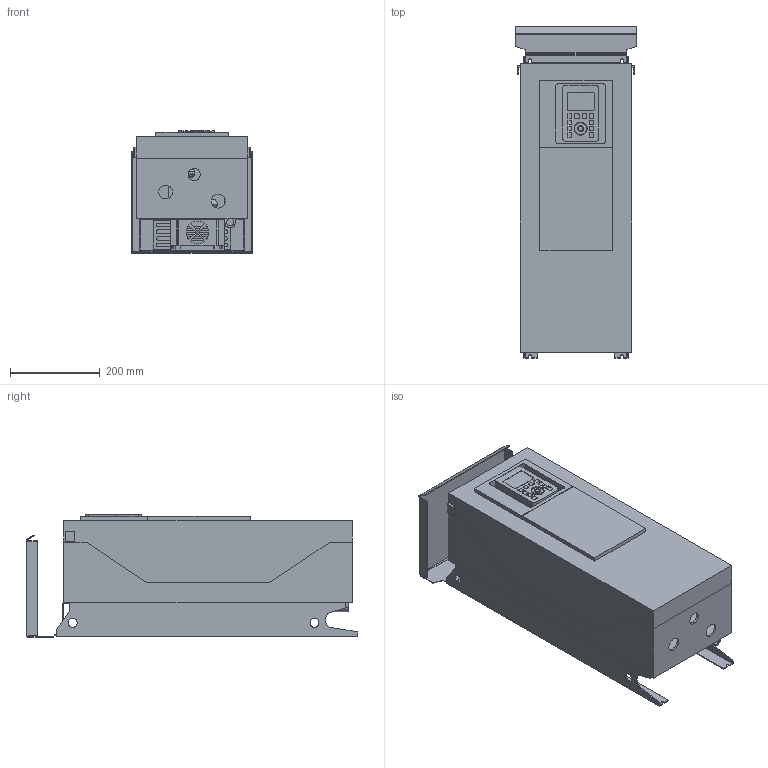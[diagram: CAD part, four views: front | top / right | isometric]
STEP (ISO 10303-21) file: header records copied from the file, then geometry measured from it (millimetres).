
FILE_DESCRIPTION((''),'2;1');
FILE_NAME('VFAS3_SA1E_ASM','2017-06-16T',('SESA57284'),('Schneider-Electric'),'PRO/ENGINEER BY PARAMETRIC TECHNOLOGY CORPORATION, 2015440','PRO/ENGINEER BY PARAMETRIC TECHNOLOGY CORPORATION, 2015440','');
FILE_SCHEMA(('CONFIG_CONTROL_DESIGN'));
Length unit declared in the file: millimetre
Products named in the file (15): PRT0001_1; PRT0002_1; PRT0003_1; ASM0003_ASM_1_ASM; PRT0004_1; PRT0005_1; PRT0006_1; PRT0007_1; PRT0008_1; PRT0009_1; ASM0004_ASM_1_ASM; PRT0010_1; VFAS3_SA1E_ASM_1_ASM; IP55_TOP_CAP_SA1E; VFAS3_SA1E_ASM
Assembly tree (14 placements, depth 4):
  VFAS3_SA1E_ASM
    VFAS3_SA1E_ASM_1_ASM
      PRT0001_1
      ASM0003_ASM_1_ASM
        PRT0002_1
        PRT0003_1
      PRT0004_1
      ASM0004_ASM_1_ASM
        PRT0005_1
        PRT0006_1
        PRT0007_1
        PRT0008_1
        PRT0009_1
      PRT0010_1
    IP55_TOP_CAP_SA1E
Bounding box: 271 x 741 x 273.13 mm (x, y, z)
Volume: 6571902.8 mm3; surface area: 2267636 mm2
Topology: 11 solids, 11 shells, 1515 faces, 4475 edges, 3027 vertices
Faces by surface type: plane 1069, cylinder 415, extrusion 27, torus 4
Entity records: 52860 total; most frequent: CARTESIAN_POINT 10695, ORIENTED_EDGE 8950, DIRECTION 8464, EDGE_CURVE 4475, VECTOR 3234, LINE 3207, VERTEX_POINT 3027, AXIS2_PLACEMENT_3D 2615
